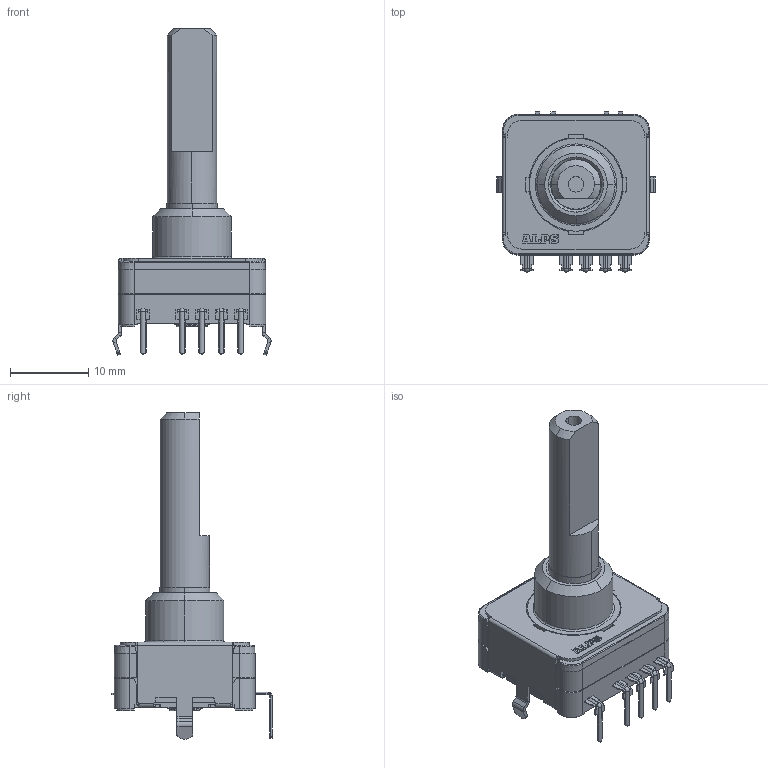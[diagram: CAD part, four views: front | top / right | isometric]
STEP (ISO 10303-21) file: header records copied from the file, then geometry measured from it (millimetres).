
FILE_DESCRIPTION(('STEP AP214'),'1');
FILE_NAME ('EC18AGB20401.STEP', '2010-12-16T07:07:50', ( '' ), ( '' ), 'SwSTEP 2.0', 'SolidWorks 2007', '' );
FILE_SCHEMA(('automotive_design'));
Length unit declared in the file: inch
Products named in the file (1): EC18AGB20401
Bounding box: 20.2 x 20.45 x 41.71 mm (x, y, z)
Volume: 3802.8 mm3; surface area: 2383.6 mm2
Topology: 1 solids, 1 shells, 767 faces, 2008 edges, 1272 vertices
Faces by surface type: plane 490, cylinder 239, cone 17, revolution 13, bspline 8
Entity records: 30349 total; most frequent: CARTESIAN_POINT 5094, ORIENTED_EDGE 4012, DIRECTION 3945, EDGE_CURVE 2006, LINE 1462, VECTOR 1462, VERTEX_POINT 1272, AXIS2_PLACEMENT_3D 1235
